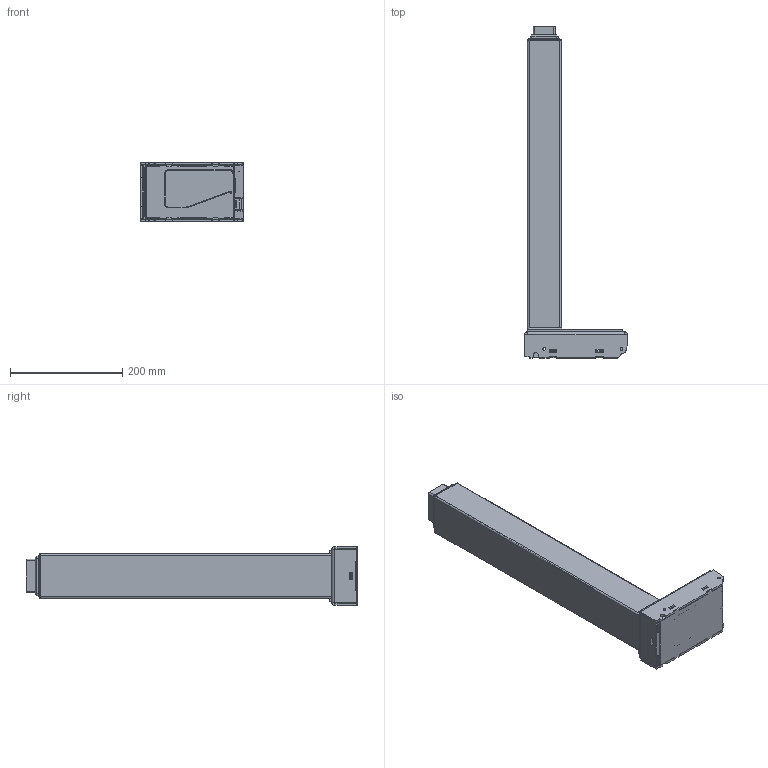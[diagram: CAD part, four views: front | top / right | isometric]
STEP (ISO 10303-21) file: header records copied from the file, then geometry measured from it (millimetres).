
FILE_DESCRIPTION (( 'STEP AP203' ), '1' );
FILE_NAME ('3D_TFL12.STEP', '2025-06-05T02:58:20', ( '' ), ( '' ), 'SwSTEP 2.0', 'SolidWorks 2015', '' );
FILE_SCHEMA (( 'CONFIG_CONTROL_DESIGN' ));
Products named in the file (1): 3D_TFL12
Bounding box: 183 x 590.9 x 105 mm (x, y, z)
Volume: 957098.1 mm3; surface area: 885093.5 mm2
Topology: 20 solids, 20 shells, 2825 faces, 7514 edges, 4674 vertices
Faces by surface type: plane 1346, cylinder 987, cone 234, bspline 191, torus 37, sphere 30
Entity records: 109440 total; most frequent: CARTESIAN_POINT 41843, ORIENTED_EDGE 15006, DIRECTION 12992, EDGE_CURVE 7503, VECTOR 4708, LINE 4708, VERTEX_POINT 4674, AXIS2_PLACEMENT_3D 4142
